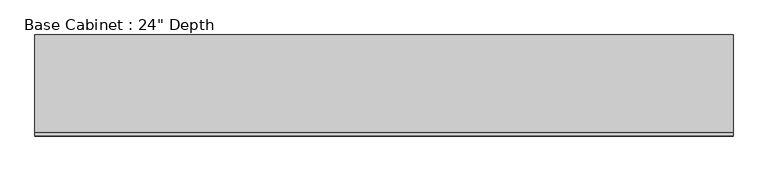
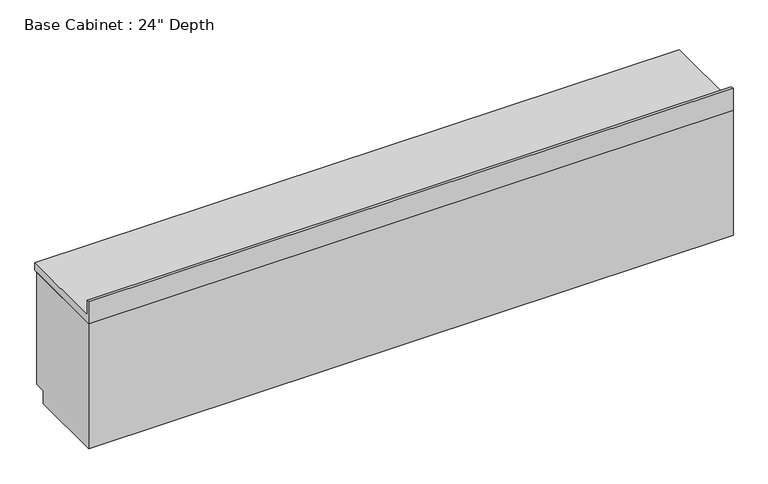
"""IFC4 building model written with IfcOpenShell, lengths in millimetres: furniture geometry."""

from ifc_helpers import new_model, si_unit, frame, origin, place, context, project, spatial, polyline, outline, extrude, source, transform, mapped, element, save


def furniture_e12269c1(model_context):
    return source(origin(), model_context, "Body", "SweptSolid", [
        extrude(outline(polyline([(61.9125, 1016.0), (80.9625, 1016.0), (80.9625, 914.4), (671.5125, 914.4), (671.5125, 863.6), (61.9125, 863.6), (61.9125, 1016.0)])), frame((23.7431032, 0.0, 0.0), z_axis=(1.0, 0.0, 0.0), x_axis=(0.0, 1.0, 0.0)), (0.0, 0.0, 1.0), 4210.1972319),
        extrude(outline(polyline([(61.9125, 863.6), (652.4625, 863.6), (652.4625, 88.9), (576.2625, 88.9), (576.2625, 0.0), (61.9125, 0.0), (61.9125, 863.6)])), frame((23.7431032, 0.0, 0.0), z_axis=(1.0, 0.0, 0.0), x_axis=(0.0, 1.0, 0.0)), (0.0, 0.0, 1.0), 4210.1972319),
    ])


if __name__ == "__main__":
    model = new_model("IFC4")
    model_context = context("Model", 3, world=origin())
    ifc_project = project(units=[si_unit("LENGTHUNIT", "METRE", prefix="MILLI")], contexts=[model_context])
    site = spatial("IfcSite", under=ifc_project)
    building = spatial("IfcBuilding", under=site)
    placement = place(None, origin())
    furniture_shape = furniture_e12269c1(model_context)
    element("IfcFurniture", 1, ObjectType="Base Cabinet : 24\" Depth", at=placement, inside=building, context=model_context, shape_type="MappedRepresentation", body=[
        mapped(furniture_shape, transform((0.0, 0.0, 0.0), x_axis=(1.0, 0.0, 0.0), y_axis=(0.0, 1.0, 0.0), z_axis=(0.0, 0.0, 1.0))),
    ])
    save(model, "model.ifc")
